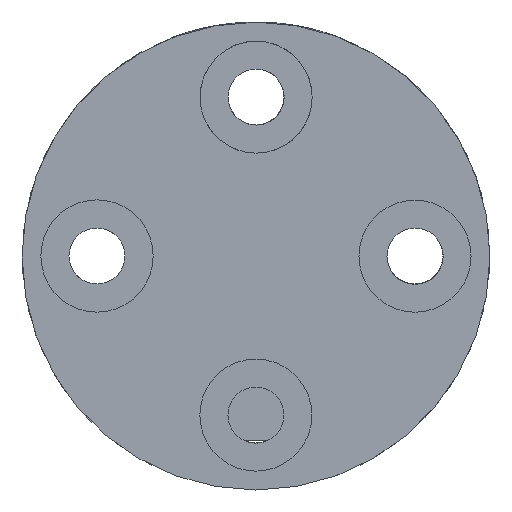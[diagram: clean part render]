
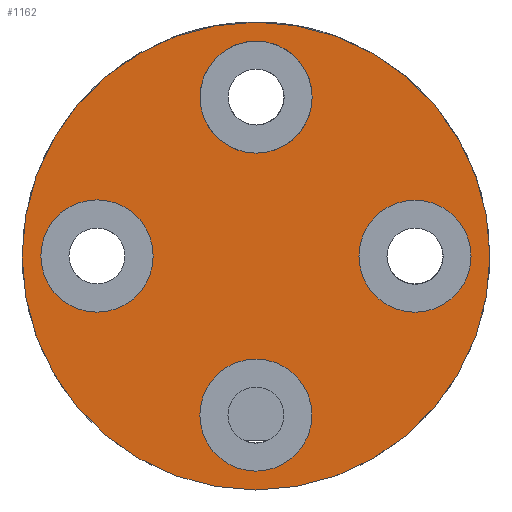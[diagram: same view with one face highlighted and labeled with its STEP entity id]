
A CAD part, front view. The second image highlights one B-rep face of the part: STEP entity #1162.
In plain terms, the highlighted planar face has unit normal (0, -1, 0).
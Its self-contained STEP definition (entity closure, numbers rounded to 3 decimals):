
#723 = EDGE_CURVE ( 'NONE', #1073, #1074, #3551, .T. ) ;
#727 = EDGE_CURVE ( 'NONE', #1077, #1078, #3557, .T. ) ;
#731 = EDGE_CURVE ( 'NONE', #1081, #1082, #3563, .T. ) ;
#743 = EDGE_CURVE ( 'NONE', #1083, #1084, #3582, .T. ) ;
#757 = EDGE_CURVE ( 'NONE', #1094, #1095, #3598, .T. ) ;
#774 = EDGE_CURVE ( 'NONE', #1095, #1094, #3612, .T. ) ;
#779 = EDGE_CURVE ( 'NONE', #1084, #1083, #3619, .T. ) ;
#780 = EDGE_CURVE ( 'NONE', #1082, #1081, #3621, .T. ) ;
#781 = EDGE_CURVE ( 'NONE', #1074, #1073, #3622, .T. ) ;
#782 = EDGE_CURVE ( 'NONE', #1078, #1077, #3624, .T. ) ;
#1073 = VERTEX_POINT ( 'NONE', #5114 ) ;
#1074 = VERTEX_POINT ( 'NONE', #5115 ) ;
#1077 = VERTEX_POINT ( 'NONE', #5118 ) ;
#1078 = VERTEX_POINT ( 'NONE', #5119 ) ;
#1081 = VERTEX_POINT ( 'NONE', #5122 ) ;
#1082 = VERTEX_POINT ( 'NONE', #5123 ) ;
#1083 = VERTEX_POINT ( 'NONE', #5124 ) ;
#1084 = VERTEX_POINT ( 'NONE', #5125 ) ;
#1094 = VERTEX_POINT ( 'NONE', #5135 ) ;
#1095 = VERTEX_POINT ( 'NONE', #5136 ) ;
#1162 = ADVANCED_FACE ( 'NONE', ( #5626, #5635, #5637, #5639, #5624 ), #5366, .F. ) ;
#1505 = ORIENTED_EDGE ( 'NONE', *, *, #781, .F. ) ;
#1506 = ORIENTED_EDGE ( 'NONE', *, *, #723, .F. ) ;
#1507 = ORIENTED_EDGE ( 'NONE', *, *, #782, .F. ) ;
#1521 = EDGE_LOOP ( 'NONE', ( #1505, #1506 ) ) ;
#1535 = EDGE_LOOP ( 'NONE', ( #1507, #1548 ) ) ;
#1536 = EDGE_LOOP ( 'NONE', ( #1549, #1550 ) ) ;
#1537 = EDGE_LOOP ( 'NONE', ( #1551, #1552 ) ) ;
#1538 = EDGE_LOOP ( 'NONE', ( #1553, #1554 ) ) ;
#1548 = ORIENTED_EDGE ( 'NONE', *, *, #727, .F. ) ;
#1549 = ORIENTED_EDGE ( 'NONE', *, *, #780, .F. ) ;
#1550 = ORIENTED_EDGE ( 'NONE', *, *, #731, .F. ) ;
#1551 = ORIENTED_EDGE ( 'NONE', *, *, #779, .F. ) ;
#1552 = ORIENTED_EDGE ( 'NONE', *, *, #743, .F. ) ;
#1553 = ORIENTED_EDGE ( 'NONE', *, *, #774, .F. ) ;
#1554 = ORIENTED_EDGE ( 'NONE', *, *, #757, .F. ) ;
#2395 = AXIS2_PLACEMENT_3D ( 'NONE', #4389, #4390, #4391 ) ;
#2397 = AXIS2_PLACEMENT_3D ( 'NONE', #4399, #4400, #4401 ) ;
#2399 = AXIS2_PLACEMENT_3D ( 'NONE', #4410, #4411, #4412 ) ;
#2402 = AXIS2_PLACEMENT_3D ( 'NONE', #4454, #4456, #4457 ) ;
#2408 = AXIS2_PLACEMENT_3D ( 'NONE', #4554, #4557, #4558 ) ;
#2420 = AXIS2_PLACEMENT_3D ( 'NONE', #4624, #4650, #4651 ) ;
#2425 = AXIS2_PLACEMENT_3D ( 'NONE', #4658, #4665, #4666 ) ;
#2426 = AXIS2_PLACEMENT_3D ( 'NONE', #4661, #4668, #4669 ) ;
#2427 = AXIS2_PLACEMENT_3D ( 'NONE', #4664, #4670, #4671 ) ;
#2428 = AXIS2_PLACEMENT_3D ( 'NONE', #4667, #4673, #4674 ) ;
#3551 = CIRCLE ( 'NONE', #2395, 2.995 ) ;
#3557 = CIRCLE ( 'NONE', #2397, 2.995 ) ;
#3563 = CIRCLE ( 'NONE', #2399, 3.001 ) ;
#3582 = CIRCLE ( 'NONE', #2402, 2.997 ) ;
#3598 = CIRCLE ( 'NONE', #2408, 12.505 ) ;
#3612 = CIRCLE ( 'NONE', #2420, 12.505 ) ;
#3619 = CIRCLE ( 'NONE', #2425, 2.997 ) ;
#3621 = CIRCLE ( 'NONE', #2426, 3.001 ) ;
#3622 = CIRCLE ( 'NONE', #2427, 2.995 ) ;
#3624 = CIRCLE ( 'NONE', #2428, 2.995 ) ;
#4389 = CARTESIAN_POINT ( 'NONE',  ( 0., 0., -8.499 ) ) ;
#4390 = DIRECTION ( 'NONE',  ( 0., -1., 0. ) ) ;
#4391 = DIRECTION ( 'NONE',  ( 0., 0., -1. ) ) ;
#4399 = CARTESIAN_POINT ( 'NONE',  ( 8.499, 0., 0. ) ) ;
#4400 = DIRECTION ( 'NONE',  ( 0., -1., 0. ) ) ;
#4401 = DIRECTION ( 'NONE',  ( 0., 0., -1. ) ) ;
#4410 = CARTESIAN_POINT ( 'NONE',  ( -8.499, 0., 0. ) ) ;
#4411 = DIRECTION ( 'NONE',  ( 0., -1., 0. ) ) ;
#4412 = DIRECTION ( 'NONE',  ( 0., 0., -1. ) ) ;
#4454 = CARTESIAN_POINT ( 'NONE',  ( 0., 0., 8.499 ) ) ;
#4456 = DIRECTION ( 'NONE',  ( 0., -1., 0. ) ) ;
#4457 = DIRECTION ( 'NONE',  ( 0., 0., -1. ) ) ;
#4554 = CARTESIAN_POINT ( 'NONE',  ( 0., 0., 0. ) ) ;
#4557 = DIRECTION ( 'NONE',  ( 0., 1., 0. ) ) ;
#4558 = DIRECTION ( 'NONE',  ( 0., 0., 1. ) ) ;
#4624 = CARTESIAN_POINT ( 'NONE',  ( 0., 0., 0. ) ) ;
#4650 = DIRECTION ( 'NONE',  ( 0., 1., 0. ) ) ;
#4651 = DIRECTION ( 'NONE',  ( 0., 0., 1. ) ) ;
#4658 = CARTESIAN_POINT ( 'NONE',  ( 0., 0., 8.499 ) ) ;
#4661 = CARTESIAN_POINT ( 'NONE',  ( -8.499, 0., 0. ) ) ;
#4664 = CARTESIAN_POINT ( 'NONE',  ( 0., 0., -8.499 ) ) ;
#4665 = DIRECTION ( 'NONE',  ( 0., -1., 0. ) ) ;
#4666 = DIRECTION ( 'NONE',  ( 0., 0., -1. ) ) ;
#4667 = CARTESIAN_POINT ( 'NONE',  ( 8.499, 0., 0. ) ) ;
#4668 = DIRECTION ( 'NONE',  ( 0., -1., 0. ) ) ;
#4669 = DIRECTION ( 'NONE',  ( 0., 0., -1. ) ) ;
#4670 = DIRECTION ( 'NONE',  ( 0., -1., 0. ) ) ;
#4671 = DIRECTION ( 'NONE',  ( 0., 0., -1. ) ) ;
#4673 = DIRECTION ( 'NONE',  ( 0., -1., 0. ) ) ;
#4674 = DIRECTION ( 'NONE',  ( 0., 0., -1. ) ) ;
#5114 = CARTESIAN_POINT ( 'NONE',  ( 0., 0., -5.504 ) ) ;
#5115 = CARTESIAN_POINT ( 'NONE',  ( 0., 0., -11.495 ) ) ;
#5118 = CARTESIAN_POINT ( 'NONE',  ( 8.499, 0., 2.995 ) ) ;
#5119 = CARTESIAN_POINT ( 'NONE',  ( 8.499, 0., -2.995 ) ) ;
#5122 = CARTESIAN_POINT ( 'NONE',  ( -8.499, 0., 3.001 ) ) ;
#5123 = CARTESIAN_POINT ( 'NONE',  ( -8.499, 0., -3.001 ) ) ;
#5124 = CARTESIAN_POINT ( 'NONE',  ( 0., 0., 11.496 ) ) ;
#5125 = CARTESIAN_POINT ( 'NONE',  ( 0., 0., 5.502 ) ) ;
#5135 = CARTESIAN_POINT ( 'NONE',  ( 0., 0., 12.505 ) ) ;
#5136 = CARTESIAN_POINT ( 'NONE',  ( 0., 0., -12.505 ) ) ;
#5365 = CARTESIAN_POINT ( 'NONE',  ( 0., 0., 0. ) ) ;
#5366 = PLANE ( 'NONE',  #5458 ) ;
#5377 = DIRECTION ( 'NONE',  ( 0., 1., 0. ) ) ;
#5378 = DIRECTION ( 'NONE',  ( 0., 0., 1. ) ) ;
#5458 = AXIS2_PLACEMENT_3D ( 'NONE', #5365, #5377, #5378 ) ;
#5624 = FACE_OUTER_BOUND ( 'NONE', #1538, .T. ) ;
#5626 = FACE_BOUND ( 'NONE', #1521, .T. ) ;
#5635 = FACE_BOUND ( 'NONE', #1535, .T. ) ;
#5637 = FACE_BOUND ( 'NONE', #1536, .T. ) ;
#5639 = FACE_BOUND ( 'NONE', #1537, .T. ) ;
